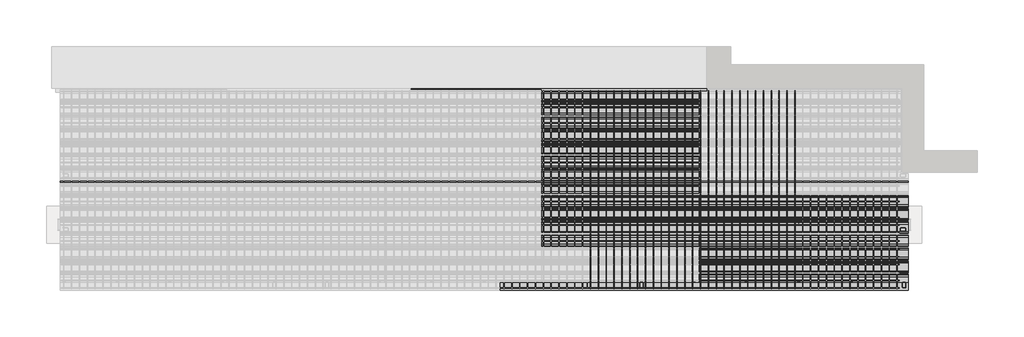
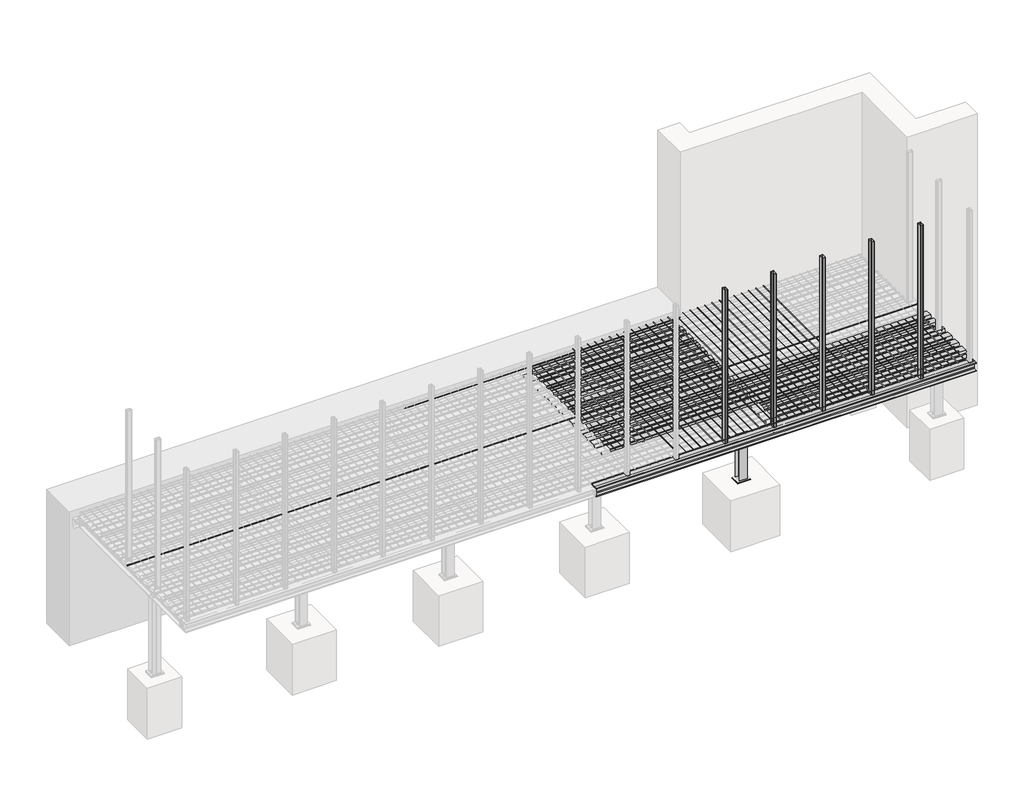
# One storey, part 4 of 36: 39 beams, 6 columns, 1 plate.
"""IFC4 building model written with IfcOpenShell, lengths in millimetres."""

from ifc_helpers import new_model, si_unit, point, frame, frame_2d, origin, place, context, project, spatial, polyline, circle_curve, trimmed, segment, composite_curve, outline, extrude, faceted_brep, element, save

model = new_model("IFC4")

# Units and contexts
model_context = context("Model", 3, world=origin())
ifc_project = project(units=[si_unit("LENGTHUNIT", "METRE", prefix="MILLI")], contexts=[model_context])

# Site, building, storey
site = spatial("IfcSite", under=ifc_project)
building = spatial("IfcBuilding", under=site)
storey = spatial("IfcBuildingStorey", under=building, Name="Základy", Elevation=-1200.0)

# Beams
placement = place(None, origin())
element("IfcBeam", 1, ObjectType="D12", at=placement, inside=storey, context=model_context, shape_type="SweptSolid", body=[
    extrude(outline(composite_curve([segment(trimmed(circle_curve(frame_2d((2079.992562, -139.0)), 6.0), [point((2073.992562, -139.0))], [point((2085.992562, -139.0))], False, "CARTESIAN"), True, "CONTINUOUS"), segment(trimmed(circle_curve(frame_2d((2079.992562, -139.0)), 6.0), [point((2085.992562, -139.0))], [point((2073.992562, -139.0))], False, "CARTESIAN"), True, "CONTINUOUS")], self_intersect=False)), frame((-40.0, 0.0, 0.0), z_axis=(1.0, 0.0, 0.0), x_axis=(0.0, 1.0, 0.0)), (0.0, 0.0, 1.0), 16180.0),
])
element("IfcBeam", 2, ObjectType="D8", at=placement, inside=storey, context=model_context, shape_type="SweptSolid", body=[
    extrude(outline(composite_curve([segment(trimmed(circle_curve(frame_2d((-49.0, 10077.5)), 4.0), [point((-49.0, 10073.5))], [point((-49.0, 10081.5))], False, "CARTESIAN"), True, "CONTINUOUS"), segment(trimmed(circle_curve(frame_2d((-49.0, 10077.5)), 4.0), [point((-49.0, 10081.5))], [point((-49.0, 10073.5))], False, "CARTESIAN"), True, "CONTINUOUS")], self_intersect=False)), frame((0.0, 35.0, 0.0), z_axis=(0.0, 1.0, 0.0), x_axis=(0.0, 0.0, 1.0)), (0.0, 0.0, 1.0), 3780.0),
])
element("IfcBeam", 3, ObjectType="D8", at=placement, inside=storey, context=model_context, shape_type="SweptSolid", body=[
    extrude(outline(composite_curve([segment(trimmed(circle_curve(frame_2d((-49.0, 10227.5)), 4.0), [point((-49.0, 10223.5))], [point((-49.0, 10231.5))], False, "CARTESIAN"), True, "CONTINUOUS"), segment(trimmed(circle_curve(frame_2d((-49.0, 10227.5)), 4.0), [point((-49.0, 10231.5))], [point((-49.0, 10223.5))], False, "CARTESIAN"), True, "CONTINUOUS")], self_intersect=False)), frame((0.0, 35.0, 0.0), z_axis=(0.0, 1.0, 0.0), x_axis=(0.0, 0.0, 1.0)), (0.0, 0.0, 1.0), 3780.0),
])
element("IfcBeam", 4, ObjectType="D8", at=placement, inside=storey, context=model_context, shape_type="SweptSolid", body=[
    extrude(outline(composite_curve([segment(trimmed(circle_curve(frame_2d((-49.0, 10377.5)), 4.0), [point((-49.0, 10373.5))], [point((-49.0, 10381.5))], False, "CARTESIAN"), True, "CONTINUOUS"), segment(trimmed(circle_curve(frame_2d((-49.0, 10377.5)), 4.0), [point((-49.0, 10381.5))], [point((-49.0, 10373.5))], False, "CARTESIAN"), True, "CONTINUOUS")], self_intersect=False)), frame((0.0, 35.0, 0.0), z_axis=(0.0, 1.0, 0.0), x_axis=(0.0, 0.0, 1.0)), (0.0, 0.0, 1.0), 3780.0),
])
element("IfcBeam", 5, ObjectType="D8", at=placement, inside=storey, context=model_context, shape_type="SweptSolid", body=[
    extrude(outline(composite_curve([segment(trimmed(circle_curve(frame_2d((-49.0, 10527.5)), 4.0), [point((-49.0, 10523.5))], [point((-49.0, 10531.5))], False, "CARTESIAN"), True, "CONTINUOUS"), segment(trimmed(circle_curve(frame_2d((-49.0, 10527.5)), 4.0), [point((-49.0, 10531.5))], [point((-49.0, 10523.5))], False, "CARTESIAN"), True, "CONTINUOUS")], self_intersect=False)), frame((0.0, 35.0, 0.0), z_axis=(0.0, 1.0, 0.0), x_axis=(0.0, 0.0, 1.0)), (0.0, 0.0, 1.0), 3780.0),
])
element("IfcBeam", 6, ObjectType="D8", at=placement, inside=storey, context=model_context, shape_type="SweptSolid", body=[
    extrude(outline(composite_curve([segment(trimmed(circle_curve(frame_2d((-49.0, 10677.5)), 4.0), [point((-49.0, 10673.5))], [point((-49.0, 10681.5))], False, "CARTESIAN"), True, "CONTINUOUS"), segment(trimmed(circle_curve(frame_2d((-49.0, 10677.5)), 4.0), [point((-49.0, 10681.5))], [point((-49.0, 10673.5))], False, "CARTESIAN"), True, "CONTINUOUS")], self_intersect=False)), frame((0.0, 35.0, 0.0), z_axis=(0.0, 1.0, 0.0), x_axis=(0.0, 0.0, 1.0)), (0.0, 0.0, 1.0), 3780.0),
])
element("IfcBeam", 7, ObjectType="D8", at=placement, inside=storey, context=model_context, shape_type="SweptSolid", body=[
    extrude(outline(composite_curve([segment(trimmed(circle_curve(frame_2d((-49.0, 10827.5)), 4.0), [point((-49.0, 10823.5))], [point((-49.0, 10831.5))], False, "CARTESIAN"), True, "CONTINUOUS"), segment(trimmed(circle_curve(frame_2d((-49.0, 10827.5)), 4.0), [point((-49.0, 10831.5))], [point((-49.0, 10823.5))], False, "CARTESIAN"), True, "CONTINUOUS")], self_intersect=False)), frame((0.0, 35.0, 0.0), z_axis=(0.0, 1.0, 0.0), x_axis=(0.0, 0.0, 1.0)), (0.0, 0.0, 1.0), 3780.0),
])
element("IfcBeam", 8, ObjectType="D8", at=placement, inside=storey, context=model_context, shape_type="SweptSolid", body=[
    extrude(outline(composite_curve([segment(trimmed(circle_curve(frame_2d((-49.0, 10977.5)), 4.0), [point((-49.0, 10973.5))], [point((-49.0, 10981.5))], False, "CARTESIAN"), True, "CONTINUOUS"), segment(trimmed(circle_curve(frame_2d((-49.0, 10977.5)), 4.0), [point((-49.0, 10981.5))], [point((-49.0, 10973.5))], False, "CARTESIAN"), True, "CONTINUOUS")], self_intersect=False)), frame((0.0, 35.0, 0.0), z_axis=(0.0, 1.0, 0.0), x_axis=(0.0, 0.0, 1.0)), (0.0, 0.0, 1.0), 3780.0),
])
element("IfcBeam", 9, ObjectType="D8", at=placement, inside=storey, context=model_context, shape_type="SweptSolid", body=[
    extrude(outline(composite_curve([segment(trimmed(circle_curve(frame_2d((-49.0, 11127.5)), 4.0), [point((-49.0, 11123.5))], [point((-49.0, 11131.5))], False, "CARTESIAN"), True, "CONTINUOUS"), segment(trimmed(circle_curve(frame_2d((-49.0, 11127.5)), 4.0), [point((-49.0, 11131.5))], [point((-49.0, 11123.5))], False, "CARTESIAN"), True, "CONTINUOUS")], self_intersect=False)), frame((0.0, 35.0, 0.0), z_axis=(0.0, 1.0, 0.0), x_axis=(0.0, 0.0, 1.0)), (0.0, 0.0, 1.0), 3780.0),
])
element("IfcBeam", 10, ObjectType="D8", at=placement, inside=storey, context=model_context, shape_type="SweptSolid", body=[
    extrude(outline(composite_curve([segment(trimmed(circle_curve(frame_2d((-49.0, 11277.5)), 4.0), [point((-49.0, 11273.5))], [point((-49.0, 11281.5))], False, "CARTESIAN"), True, "CONTINUOUS"), segment(trimmed(circle_curve(frame_2d((-49.0, 11277.5)), 4.0), [point((-49.0, 11281.5))], [point((-49.0, 11273.5))], False, "CARTESIAN"), True, "CONTINUOUS")], self_intersect=False)), frame((0.0, 35.0, 0.0), z_axis=(0.0, 1.0, 0.0), x_axis=(0.0, 0.0, 1.0)), (0.0, 0.0, 1.0), 3780.0),
])
element("IfcBeam", 11, ObjectType="D8", at=placement, inside=storey, context=model_context, shape_type="SweptSolid", body=[
    extrude(outline(composite_curve([segment(trimmed(circle_curve(frame_2d((-49.0, 11427.5)), 4.0), [point((-49.0, 11423.5))], [point((-49.0, 11431.5))], False, "CARTESIAN"), True, "CONTINUOUS"), segment(trimmed(circle_curve(frame_2d((-49.0, 11427.5)), 4.0), [point((-49.0, 11431.5))], [point((-49.0, 11423.5))], False, "CARTESIAN"), True, "CONTINUOUS")], self_intersect=False)), frame((0.0, 35.0, 0.0), z_axis=(0.0, 1.0, 0.0), x_axis=(0.0, 0.0, 1.0)), (0.0, 0.0, 1.0), 3780.0),
])
element("IfcBeam", 12, ObjectType="D8", at=placement, inside=storey, context=model_context, shape_type="SweptSolid", body=[
    extrude(outline(composite_curve([segment(trimmed(circle_curve(frame_2d((-49.0, 11577.5)), 4.0), [point((-49.0, 11573.5))], [point((-49.0, 11581.5))], False, "CARTESIAN"), True, "CONTINUOUS"), segment(trimmed(circle_curve(frame_2d((-49.0, 11577.5)), 4.0), [point((-49.0, 11581.5))], [point((-49.0, 11573.5))], False, "CARTESIAN"), True, "CONTINUOUS")], self_intersect=False)), frame((0.0, 35.0, 0.0), z_axis=(0.0, 1.0, 0.0), x_axis=(0.0, 0.0, 1.0)), (0.0, 0.0, 1.0), 3780.0),
])
element("IfcBeam", 13, ObjectType="D8", at=placement, inside=storey, context=model_context, shape_type="SweptSolid", body=[
    extrude(outline(composite_curve([segment(trimmed(circle_curve(frame_2d((-49.0, 11727.5)), 4.0), [point((-49.0, 11723.5))], [point((-49.0, 11731.5))], False, "CARTESIAN"), True, "CONTINUOUS"), segment(trimmed(circle_curve(frame_2d((-49.0, 11727.5)), 4.0), [point((-49.0, 11731.5))], [point((-49.0, 11723.5))], False, "CARTESIAN"), True, "CONTINUOUS")], self_intersect=False)), frame((0.0, 35.0, 0.0), z_axis=(0.0, 1.0, 0.0), x_axis=(0.0, 0.0, 1.0)), (0.0, 0.0, 1.0), 3780.0),
])
element("IfcBeam", 14, ObjectType="D8", at=placement, inside=storey, context=model_context, shape_type="SweptSolid", body=[
    extrude(outline(composite_curve([segment(trimmed(circle_curve(frame_2d((-49.0, 11877.5)), 4.0), [point((-49.0, 11873.5))], [point((-49.0, 11881.5))], False, "CARTESIAN"), True, "CONTINUOUS"), segment(trimmed(circle_curve(frame_2d((-49.0, 11877.5)), 4.0), [point((-49.0, 11881.5))], [point((-49.0, 11873.5))], False, "CARTESIAN"), True, "CONTINUOUS")], self_intersect=False)), frame((0.0, 35.0, 0.0), z_axis=(0.0, 1.0, 0.0), x_axis=(0.0, 0.0, 1.0)), (0.0, 0.0, 1.0), 3780.0),
])
element("IfcBeam", 15, ObjectType="D8", at=placement, inside=storey, context=model_context, shape_type="SweptSolid", body=[
    extrude(outline(composite_curve([segment(trimmed(circle_curve(frame_2d((-49.0, 12027.5)), 4.0), [point((-49.0, 12023.5))], [point((-49.0, 12031.5))], False, "CARTESIAN"), True, "CONTINUOUS"), segment(trimmed(circle_curve(frame_2d((-49.0, 12027.5)), 4.0), [point((-49.0, 12031.5))], [point((-49.0, 12023.5))], False, "CARTESIAN"), True, "CONTINUOUS")], self_intersect=False)), frame((0.0, 35.0, 0.0), z_axis=(0.0, 1.0, 0.0), x_axis=(0.0, 0.0, 1.0)), (0.0, 0.0, 1.0), 3780.0),
])
element("IfcBeam", 16, ObjectType="D8", at=placement, inside=storey, context=model_context, shape_type="SweptSolid", body=[
    extrude(outline(composite_curve([segment(trimmed(circle_curve(frame_2d((-49.0, 12177.5)), 4.0), [point((-49.0, 12173.5))], [point((-49.0, 12181.5))], False, "CARTESIAN"), True, "CONTINUOUS"), segment(trimmed(circle_curve(frame_2d((-49.0, 12177.5)), 4.0), [point((-49.0, 12181.5))], [point((-49.0, 12173.5))], False, "CARTESIAN"), True, "CONTINUOUS")], self_intersect=False)), frame((0.0, 35.0, 0.0), z_axis=(0.0, 1.0, 0.0), x_axis=(0.0, 0.0, 1.0)), (0.0, 0.0, 1.0), 3780.0),
])
element("IfcBeam", 17, ObjectType="D8", at=placement, inside=storey, context=model_context, shape_type="SweptSolid", body=[
    extrude(outline(composite_curve([segment(trimmed(circle_curve(frame_2d((-49.0, 12327.5)), 4.0), [point((-49.0, 12323.5))], [point((-49.0, 12331.5))], False, "CARTESIAN"), True, "CONTINUOUS"), segment(trimmed(circle_curve(frame_2d((-49.0, 12327.5)), 4.0), [point((-49.0, 12331.5))], [point((-49.0, 12323.5))], False, "CARTESIAN"), True, "CONTINUOUS")], self_intersect=False)), frame((0.0, 35.0, 0.0), z_axis=(0.0, 1.0, 0.0), x_axis=(0.0, 0.0, 1.0)), (0.0, 0.0, 1.0), 3780.0),
])
element("IfcBeam", 18, ObjectType="D8", at=placement, inside=storey, context=model_context, shape_type="SweptSolid", body=[
    extrude(outline(composite_curve([segment(trimmed(circle_curve(frame_2d((-49.0, 12477.5)), 4.0), [point((-49.0, 12473.5))], [point((-49.0, 12481.5))], False, "CARTESIAN"), True, "CONTINUOUS"), segment(trimmed(circle_curve(frame_2d((-49.0, 12477.5)), 4.0), [point((-49.0, 12481.5))], [point((-49.0, 12473.5))], False, "CARTESIAN"), True, "CONTINUOUS")], self_intersect=False)), frame((0.0, 35.0, 0.0), z_axis=(0.0, 1.0, 0.0), x_axis=(0.0, 0.0, 1.0)), (0.0, 0.0, 1.0), 3780.0),
])
element("IfcBeam", 19, ObjectType="D8", at=placement, inside=storey, context=model_context, shape_type="SweptSolid", body=[
    extrude(outline(composite_curve([segment(trimmed(circle_curve(frame_2d((-49.0, 12627.5)), 4.0), [point((-49.0, 12623.5))], [point((-49.0, 12631.5))], False, "CARTESIAN"), True, "CONTINUOUS"), segment(trimmed(circle_curve(frame_2d((-49.0, 12627.5)), 4.0), [point((-49.0, 12631.5))], [point((-49.0, 12623.5))], False, "CARTESIAN"), True, "CONTINUOUS")], self_intersect=False)), frame((0.0, 35.0, 0.0), z_axis=(0.0, 1.0, 0.0), x_axis=(0.0, 0.0, 1.0)), (0.0, 0.0, 1.0), 3780.0),
])
element("IfcBeam", 20, ObjectType="D8", at=placement, inside=storey, context=model_context, shape_type="SweptSolid", body=[
    extrude(outline(composite_curve([segment(trimmed(circle_curve(frame_2d((-49.0, 12777.5)), 4.0), [point((-49.0, 12773.5))], [point((-49.0, 12781.5))], False, "CARTESIAN"), True, "CONTINUOUS"), segment(trimmed(circle_curve(frame_2d((-49.0, 12777.5)), 4.0), [point((-49.0, 12781.5))], [point((-49.0, 12773.5))], False, "CARTESIAN"), True, "CONTINUOUS")], self_intersect=False)), frame((0.0, 35.0, 0.0), z_axis=(0.0, 1.0, 0.0), x_axis=(0.0, 0.0, 1.0)), (0.0, 0.0, 1.0), 3780.0),
])
element("IfcBeam", 21, ObjectType="D8", at=placement, inside=storey, context=model_context, shape_type="SweptSolid", body=[
    extrude(outline(composite_curve([segment(trimmed(circle_curve(frame_2d((-49.0, 12927.5)), 4.0), [point((-49.0, 12923.5))], [point((-49.0, 12931.5))], False, "CARTESIAN"), True, "CONTINUOUS"), segment(trimmed(circle_curve(frame_2d((-49.0, 12927.5)), 4.0), [point((-49.0, 12931.5))], [point((-49.0, 12923.5))], False, "CARTESIAN"), True, "CONTINUOUS")], self_intersect=False)), frame((0.0, 35.0, 0.0), z_axis=(0.0, 1.0, 0.0), x_axis=(0.0, 0.0, 1.0)), (0.0, 0.0, 1.0), 3780.0),
])
element("IfcBeam", 22, ObjectType="D8", at=placement, inside=storey, context=model_context, shape_type="SweptSolid", body=[
    extrude(outline(composite_curve([segment(trimmed(circle_curve(frame_2d((-49.0, 13077.5)), 4.0), [point((-49.0, 13073.5))], [point((-49.0, 13081.5))], False, "CARTESIAN"), True, "CONTINUOUS"), segment(trimmed(circle_curve(frame_2d((-49.0, 13077.5)), 4.0), [point((-49.0, 13081.5))], [point((-49.0, 13073.5))], False, "CARTESIAN"), True, "CONTINUOUS")], self_intersect=False)), frame((0.0, 35.0, 0.0), z_axis=(0.0, 1.0, 0.0), x_axis=(0.0, 0.0, 1.0)), (0.0, 0.0, 1.0), 3780.0),
])
element("IfcBeam", 23, ObjectType="D8", at=placement, inside=storey, context=model_context, shape_type="SweptSolid", body=[
    extrude(outline(composite_curve([segment(trimmed(circle_curve(frame_2d((-49.0, 13227.5)), 4.0), [point((-49.0, 13223.5))], [point((-49.0, 13231.5))], False, "CARTESIAN"), True, "CONTINUOUS"), segment(trimmed(circle_curve(frame_2d((-49.0, 13227.5)), 4.0), [point((-49.0, 13231.5))], [point((-49.0, 13223.5))], False, "CARTESIAN"), True, "CONTINUOUS")], self_intersect=False)), frame((0.0, 35.0, 0.0), z_axis=(0.0, 1.0, 0.0), x_axis=(0.0, 0.0, 1.0)), (0.0, 0.0, 1.0), 3780.0),
])
element("IfcBeam", 24, ObjectType="D8", at=placement, inside=storey, context=model_context, shape_type="SweptSolid", body=[
    extrude(outline(composite_curve([segment(trimmed(circle_curve(frame_2d((-49.0, 13377.5)), 4.0), [point((-49.0, 13373.5))], [point((-49.0, 13381.5))], False, "CARTESIAN"), True, "CONTINUOUS"), segment(trimmed(circle_curve(frame_2d((-49.0, 13377.5)), 4.0), [point((-49.0, 13381.5))], [point((-49.0, 13373.5))], False, "CARTESIAN"), True, "CONTINUOUS")], self_intersect=False)), frame((0.0, 35.0, 0.0), z_axis=(0.0, 1.0, 0.0), x_axis=(0.0, 0.0, 1.0)), (0.0, 0.0, 1.0), 3780.0),
])
element("IfcBeam", 25, ObjectType="D8", at=placement, inside=storey, context=model_context, shape_type="SweptSolid", body=[
    extrude(outline(composite_curve([segment(trimmed(circle_curve(frame_2d((-49.0, 13527.5)), 4.0), [point((-49.0, 13523.5))], [point((-49.0, 13531.5))], False, "CARTESIAN"), True, "CONTINUOUS"), segment(trimmed(circle_curve(frame_2d((-49.0, 13527.5)), 4.0), [point((-49.0, 13531.5))], [point((-49.0, 13523.5))], False, "CARTESIAN"), True, "CONTINUOUS")], self_intersect=False)), frame((0.0, 35.0, 0.0), z_axis=(0.0, 1.0, 0.0), x_axis=(0.0, 0.0, 1.0)), (0.0, 0.0, 1.0), 3780.0),
])
element("IfcBeam", 26, ObjectType="D8", at=placement, inside=storey, context=model_context, shape_type="SweptSolid", body=[
    extrude(outline(composite_curve([segment(trimmed(circle_curve(frame_2d((-49.0, 13677.5)), 4.0), [point((-49.0, 13673.5))], [point((-49.0, 13681.5))], False, "CARTESIAN"), True, "CONTINUOUS"), segment(trimmed(circle_curve(frame_2d((-49.0, 13677.5)), 4.0), [point((-49.0, 13681.5))], [point((-49.0, 13673.5))], False, "CARTESIAN"), True, "CONTINUOUS")], self_intersect=False)), frame((0.0, 35.0, 0.0), z_axis=(0.0, 1.0, 0.0), x_axis=(0.0, 0.0, 1.0)), (0.0, 0.0, 1.0), 3780.0),
])
element("IfcBeam", 27, ObjectType="D8", at=placement, inside=storey, context=model_context, shape_type="SweptSolid", body=[
    extrude(outline(composite_curve([segment(trimmed(circle_curve(frame_2d((-49.0, 13827.5)), 4.0), [point((-49.0, 13823.5))], [point((-49.0, 13831.5))], False, "CARTESIAN"), True, "CONTINUOUS"), segment(trimmed(circle_curve(frame_2d((-49.0, 13827.5)), 4.0), [point((-49.0, 13831.5))], [point((-49.0, 13823.5))], False, "CARTESIAN"), True, "CONTINUOUS")], self_intersect=False)), frame((0.0, 35.0, 0.0), z_axis=(0.0, 1.0, 0.0), x_axis=(0.0, 0.0, 1.0)), (0.0, 0.0, 1.0), 3780.0),
])
element("IfcBeam", 28, ObjectType="D8", at=placement, inside=storey, context=model_context, shape_type="SweptSolid", body=[
    extrude(outline(composite_curve([segment(trimmed(circle_curve(frame_2d((-49.0, 13977.5)), 4.0), [point((-49.0, 13973.5))], [point((-49.0, 13981.5))], False, "CARTESIAN"), True, "CONTINUOUS"), segment(trimmed(circle_curve(frame_2d((-49.0, 13977.5)), 4.0), [point((-49.0, 13981.5))], [point((-49.0, 13973.5))], False, "CARTESIAN"), True, "CONTINUOUS")], self_intersect=False)), frame((0.0, 35.0, 0.0), z_axis=(0.0, 1.0, 0.0), x_axis=(0.0, 0.0, 1.0)), (0.0, 0.0, 1.0), 3780.0),
])
element("IfcBeam", 29, ObjectType="HEA120", at=placement, inside=storey, context=model_context, shape_type="SweptSolid", body=[
    extrude(outline(composite_curve([segment(polyline([(1200.0, -193.0), (1320.0, -193.0), (1320.0, -201.0), (1274.5, -201.0)]), True, "CONTINUOUS"), segment(trimmed(circle_curve(frame_2d((1274.5, -213.0)), 12.0), [point((1274.5, -201.0))], [point((1262.5, -213.0))], True, "CARTESIAN"), True, "CONTINUOUS"), segment(polyline([(1262.5, -213.0), (1262.5, -287.0)]), True, "CONTINUOUS"), segment(trimmed(circle_curve(frame_2d((1274.5, -287.0)), 12.0), [point((1262.5, -287.0))], [point((1274.5, -299.0))], True, "CARTESIAN"), True, "CONTINUOUS"), segment(polyline([(1274.5, -299.0), (1320.0, -299.0), (1320.0, -307.0), (1200.0, -307.0), (1200.0, -299.0), (1245.5, -299.0)]), True, "CONTINUOUS"), segment(trimmed(circle_curve(frame_2d((1245.5, -287.0)), 12.0), [point((1245.5, -299.0))], [point((1257.5, -287.0))], True, "CARTESIAN"), True, "CONTINUOUS"), segment(polyline([(1257.5, -287.0), (1257.5, -213.0)]), True, "CONTINUOUS"), segment(trimmed(circle_curve(frame_2d((1245.5, -213.0)), 12.0), [point((1257.5, -213.0))], [point((1245.5, -201.0))], True, "CARTESIAN"), True, "CONTINUOUS"), segment(polyline([(1245.5, -201.0), (1200.0, -201.0), (1200.0, -193.0)]), True, "CONTINUOUS")], self_intersect=False)), frame((9160.0, 0.0, 0.0), z_axis=(1.0, 0.0, 0.0), x_axis=(0.0, 1.0, 0.0)), (0.0, 0.0, 1.0), 2780.0),
])
element("IfcBeam", 30, ObjectType="HEB180", at=placement, inside=storey, context=model_context, shape_type="SweptSolid", body=[
    extrude(outline(composite_curve([segment(polyline([(-340.0, 12140.0), (-326.0, 12140.0), (-326.0, 12069.25)]), True, "CONTINUOUS"), segment(trimmed(circle_curve(frame_2d((-311.0, 12069.25)), 15.0), [point((-326.0, 12069.25))], [point((-311.0, 12054.25))], True, "CARTESIAN"), True, "CONTINUOUS"), segment(polyline([(-311.0, 12054.25), (-189.0, 12054.25)]), True, "CONTINUOUS"), segment(trimmed(circle_curve(frame_2d((-189.0, 12069.25)), 15.0), [point((-189.0, 12054.25))], [point((-174.0, 12069.25))], True, "CARTESIAN"), True, "CONTINUOUS"), segment(polyline([(-174.0, 12069.25), (-174.0, 12140.0), (-160.0, 12140.0), (-160.0, 11960.0), (-174.0, 11960.0), (-174.0, 12030.75)]), True, "CONTINUOUS"), segment(trimmed(circle_curve(frame_2d((-189.0, 12030.75)), 15.0), [point((-174.0, 12030.75))], [point((-189.0, 12045.75))], True, "CARTESIAN"), True, "CONTINUOUS"), segment(polyline([(-189.0, 12045.75), (-311.0, 12045.75)]), True, "CONTINUOUS"), segment(trimmed(circle_curve(frame_2d((-311.0, 12030.75)), 15.0), [point((-311.0, 12045.75))], [point((-326.0, 12030.75))], True, "CARTESIAN"), True, "CONTINUOUS"), segment(polyline([(-326.0, 12030.75), (-326.0, 11960.0), (-340.0, 11960.0), (-340.0, 12140.0)]), True, "CONTINUOUS")], self_intersect=False)), frame((0.0, 210.0, 0.0), z_axis=(0.0, 1.0, 0.0), x_axis=(0.0, 0.0, 1.0)), (0.0, 0.0, 1.0), 3557.0),
])
element("IfcBeam", 31, ObjectType="HEB180", at=placement, inside=storey, context=model_context, shape_type="SweptSolid", body=[
    extrude(outline(composite_curve([segment(polyline([(10.0, -160.0), (190.0, -160.0), (190.0, -174.0), (119.25, -174.0)]), True, "CONTINUOUS"), segment(trimmed(circle_curve(frame_2d((119.25, -189.0)), 15.0), [point((119.25, -174.0))], [point((104.25, -189.0))], True, "CARTESIAN"), True, "CONTINUOUS"), segment(polyline([(104.25, -189.0), (104.25, -311.0)]), True, "CONTINUOUS"), segment(trimmed(circle_curve(frame_2d((119.25, -311.0)), 15.0), [point((104.25, -311.0))], [point((119.25, -326.0))], True, "CARTESIAN"), True, "CONTINUOUS"), segment(polyline([(119.25, -326.0), (190.0, -326.0), (190.0, -340.0), (10.0, -340.0), (10.0, -326.0), (80.75, -326.0)]), True, "CONTINUOUS"), segment(trimmed(circle_curve(frame_2d((80.75, -311.0)), 15.0), [point((80.75, -326.0))], [point((95.75, -311.0))], True, "CARTESIAN"), True, "CONTINUOUS"), segment(polyline([(95.75, -311.0), (95.75, -189.0)]), True, "CONTINUOUS"), segment(trimmed(circle_curve(frame_2d((80.75, -189.0)), 15.0), [point((95.75, -189.0))], [point((80.75, -174.0))], True, "CARTESIAN"), True, "CONTINUOUS"), segment(polyline([(80.75, -174.0), (10.0, -174.0), (10.0, -160.0)]), True, "CONTINUOUS")], self_intersect=False)), frame((8360.0, 0.0, 0.0), z_axis=(1.0, 0.0, 0.0), x_axis=(0.0, 1.0, 0.0)), (0.0, 0.0, 1.0), 7780.0),
])
element("IfcBeam", 32, ObjectType="HEB180", at=placement, inside=storey, context=model_context, shape_type="SweptSolid", body=[
    extrude(outline(composite_curve([segment(polyline([(1170.0, -160.0), (1350.0, -160.0), (1350.0, -174.0), (1279.25, -174.0)]), True, "CONTINUOUS"), segment(trimmed(circle_curve(frame_2d((1279.25, -189.0)), 15.0), [point((1279.25, -174.0))], [point((1264.25, -189.0))], True, "CARTESIAN"), True, "CONTINUOUS"), segment(polyline([(1264.25, -189.0), (1264.25, -311.0)]), True, "CONTINUOUS"), segment(trimmed(circle_curve(frame_2d((1279.25, -311.0)), 15.0), [point((1264.25, -311.0))], [point((1279.25, -326.0))], True, "CARTESIAN"), True, "CONTINUOUS"), segment(polyline([(1279.25, -326.0), (1350.0, -326.0), (1350.0, -340.0), (1170.0, -340.0), (1170.0, -326.0), (1240.75, -326.0)]), True, "CONTINUOUS"), segment(trimmed(circle_curve(frame_2d((1240.75, -311.0)), 15.0), [point((1240.75, -326.0))], [point((1255.75, -311.0))], True, "CARTESIAN"), True, "CONTINUOUS"), segment(polyline([(1255.75, -311.0), (1255.75, -189.0)]), True, "CONTINUOUS"), segment(trimmed(circle_curve(frame_2d((1240.75, -189.0)), 15.0), [point((1255.75, -189.0))], [point((1240.75, -174.0))], True, "CARTESIAN"), True, "CONTINUOUS"), segment(polyline([(1240.75, -174.0), (1170.0, -174.0), (1170.0, -160.0)]), True, "CONTINUOUS")], self_intersect=False)), frame((12160.0, 0.0, 0.0), z_axis=(1.0, 0.0, 0.0), x_axis=(0.0, 1.0, 0.0)), (0.0, 0.0, 1.0), 3780.0),
])
element("IfcBeam", 33, ObjectType="IPE180", at=placement, inside=storey, context=model_context, shape_type="SweptSolid", body=[
    extrude(outline(composite_curve([segment(polyline([(-340.0, 14095.5), (-332.0, 14095.5), (-332.0, 14061.6500001)]), True, "CONTINUOUS"), segment(trimmed(circle_curve(frame_2d((-323.0, 14061.6500001)), 9.0), [point((-332.0, 14061.6500001))], [point((-323.0, 14052.6500001))], True, "CARTESIAN"), True, "CONTINUOUS"), segment(polyline([(-323.0, 14052.6500001), (-177.0, 14052.6500001)]), True, "CONTINUOUS"), segment(trimmed(circle_curve(frame_2d((-177.0, 14061.6500001)), 9.0), [point((-177.0, 14052.6500001))], [point((-168.0, 14061.6500001))], True, "CARTESIAN"), True, "CONTINUOUS"), segment(polyline([(-168.0, 14061.6500001), (-168.0, 14095.5), (-160.0, 14095.5), (-160.0, 14004.5), (-168.0, 14004.5), (-168.0, 14038.3499999)]), True, "CONTINUOUS"), segment(trimmed(circle_curve(frame_2d((-177.0, 14038.3499999)), 9.0), [point((-168.0, 14038.3499999))], [point((-177.0, 14047.3499999))], True, "CARTESIAN"), True, "CONTINUOUS"), segment(polyline([(-177.0, 14047.3499999), (-323.0, 14047.3499999)]), True, "CONTINUOUS"), segment(trimmed(circle_curve(frame_2d((-323.0, 14038.3499999)), 9.0), [point((-323.0, 14047.3499999))], [point((-332.0, 14038.3499999))], True, "CARTESIAN"), True, "CONTINUOUS"), segment(polyline([(-332.0, 14038.3499999), (-332.0, 14004.5), (-340.0, 14004.5), (-340.0, 14095.5)]), True, "CONTINUOUS")], self_intersect=False)), frame((0.0, 210.0, 0.0), z_axis=(0.0, 1.0, 0.0), x_axis=(0.0, 0.0, 1.0)), (0.0, 0.0, 1.0), 940.0),
])
element("IfcBeam", 34, ObjectType="TR50/250", at=placement, inside=storey, context=model_context, shape_type="SweptSolid", body=[
    extrude(outline(polyline([(3802.7875602, -160.0099992), (3772.2875602, -111.5000008), (3637.6975638, -111.5000008), (3607.1975638, -160.0000008), (3552.7875754, -160.0000008), (3522.2875754, -111.5000008), (3387.6975715, -111.5000008), (3357.1975715, -160.0000008), (3302.7875697, -160.0000008), (3272.2875716, -111.5000008), (3137.6975638, -111.5000008), (3107.1975638, -160.0000008), (3052.7875602, -160.0000008), (3022.2875602, -111.5000008), (2887.6975638, -111.5000008), (2857.1975638, -160.0000008), (2802.7875602, -160.0000008), (2790.7375724, -139.4300002), (2803.1975638, -159.2500008), (2856.7875602, -159.2500008), (2887.2875602, -110.7500008), (3022.6975638, -110.7500008), (3053.1975638, -159.2500008), (3106.7875754, -159.2500008), (3137.2875754, -110.7500008), (3272.6975715, -110.7500008), (3303.1975695, -159.2500008), (3356.7875716, -159.2500008), (3387.2875678, -110.7500008), (3522.6975638, -110.7500008), (3553.1975638, -159.2500008), (3606.7875602, -159.2500008), (3637.2875602, -110.7500008), (3772.6975638, -110.7500008), (3803.1975638, -159.2500008), (3839.9975821, -160.0000008), (3802.7875602, -160.0099992)])), frame((8960.0, 0.0, 0.0), z_axis=(1.0, 0.0, 0.0), x_axis=(0.0, 1.0, 0.0)), (0.0, 0.0, 1.0), 3180.0),
])
element("IfcBeam", 35, ObjectType="TR50/250", at=placement, inside=storey, context=model_context, shape_type="SweptSolid", body=[
    extrude(outline(polyline([(2802.7875602, -160.0099992), (2772.2875602, -111.5000008), (2637.6975638, -111.5000008), (2607.1975638, -160.0000008), (2552.7875754, -160.0000008), (2522.2875754, -111.5000008), (2387.6975715, -111.5000008), (2357.1975715, -160.0000008), (2302.7875697, -160.0000008), (2272.2875716, -111.5000008), (2137.6975638, -111.5000008), (2107.1975638, -160.0000008), (2052.7875602, -160.0000008), (2022.2875602, -111.5000008), (1887.6975638, -111.5000008), (1857.1975638, -160.0000008), (1802.7875602, -160.0000008), (1790.7375724, -139.4300002), (1803.1975638, -159.2500008), (1856.7875602, -159.2500008), (1887.2875602, -110.7500008), (2022.6975638, -110.7500008), (2053.1975638, -159.2500008), (2106.7875754, -159.2500008), (2137.2875754, -110.7500008), (2272.6975715, -110.7500008), (2303.1975695, -159.2500008), (2356.7875716, -159.2500008), (2387.2875678, -110.7500008), (2522.6975638, -110.7500008), (2553.1975638, -159.2500008), (2606.7875602, -159.2500008), (2637.2875602, -110.7500008), (2772.6975638, -110.7500008), (2803.1975638, -159.2500008), (2839.9975821, -160.0000008), (2802.7875602, -160.0099992)])), frame((8960.0, 0.0, 0.0), z_axis=(1.0, 0.0, 0.0), x_axis=(0.0, 1.0, 0.0)), (0.0, 0.0, 1.0), 3180.0),
])
element("IfcBeam", 36, ObjectType="TR50/250", at=placement, inside=storey, context=model_context, shape_type="SweptSolid", body=[
    extrude(outline(polyline([(1802.7875602, -160.0099992), (1772.2875602, -111.5000008), (1637.6975638, -111.5000008), (1607.1975638, -160.0000008), (1552.7875754, -160.0000008), (1522.2875754, -111.5000008), (1387.6975715, -111.5000008), (1357.1975715, -160.0000008), (1302.7875697, -160.0000008), (1272.2875716, -111.5000008), (1137.6975638, -111.5000008), (1107.1975638, -160.0000008), (1052.7875602, -160.0000008), (1022.2875602, -111.5000008), (887.6975638, -111.5000008), (857.1975638, -160.0000008), (802.7875602, -160.0000008), (790.7375724, -139.4300002), (803.1975638, -159.2500008), (856.7875602, -159.2500008), (887.2875602, -110.7500008), (1022.6975638, -110.7500008), (1053.1975638, -159.2500008), (1106.7875754, -159.2500008), (1137.2875754, -110.7500008), (1272.6975715, -110.7500008), (1303.1975695, -159.2500008), (1356.7875716, -159.2500008), (1387.2875678, -110.7500008), (1522.6975638, -110.7500008), (1553.1975638, -159.2500008), (1606.7875602, -159.2500008), (1637.2875602, -110.7500008), (1772.6975638, -110.7500008), (1803.1975638, -159.2500008), (1839.9975821, -160.0000008), (1802.7875602, -160.0099992)])), frame((8960.0, 0.0, 0.0), z_axis=(1.0, 0.0, 0.0), x_axis=(0.0, 1.0, 0.0)), (0.0, 0.0, 1.0), 3180.0),
])
element("IfcBeam", 37, ObjectType="TR50/250", at=placement, inside=storey, context=model_context, shape_type="SweptSolid", body=[
    extrude(outline(polyline([(1802.7875602, -160.0099992), (1772.2875602, -111.5000008), (1637.6975638, -111.5000008), (1607.1975638, -160.0000008), (1552.7875754, -160.0000008), (1522.2875754, -111.5000008), (1387.6975715, -111.5000008), (1357.1975715, -160.0000008), (1302.7875697, -160.0000008), (1272.2875716, -111.5000008), (1137.6975638, -111.5000008), (1107.1975638, -160.0000008), (1052.7875602, -160.0000008), (1022.2875602, -111.5000008), (887.6975638, -111.5000008), (857.1975638, -160.0000008), (802.7875602, -160.0000008), (790.7375724, -139.4300002), (803.1975638, -159.2500008), (856.7875602, -159.2500008), (887.2875602, -110.7500008), (1022.6975638, -110.7500008), (1053.1975638, -159.2500008), (1106.7875754, -159.2500008), (1137.2875754, -110.7500008), (1272.6975715, -110.7500008), (1303.1975695, -159.2500008), (1356.7875716, -159.2500008), (1387.2875678, -110.7500008), (1522.6975638, -110.7500008), (1553.1975638, -159.2500008), (1606.7875602, -159.2500008), (1637.2875602, -110.7500008), (1772.6975638, -110.7500008), (1803.1975638, -159.2500008), (1839.9975821, -160.0000008), (1802.7875602, -160.0099992)])), frame((11960.0, 0.0, 0.0), z_axis=(1.0, 0.0, 0.0), x_axis=(0.0, 1.0, 0.0)), (0.0, 0.0, 1.0), 4180.0),
])
element("IfcBeam", 38, ObjectType="TR50/250", at=placement, inside=storey, context=model_context, shape_type="SweptSolid", body=[
    extrude(outline(polyline([(802.7875602, -160.0099992), (772.2875602, -111.5000008), (637.6975638, -111.5000008), (607.1975638, -160.0000008), (552.7875754, -160.0000008), (522.2875754, -111.5000008), (387.6975715, -111.5000008), (357.1975715, -160.0000008), (302.7875697, -160.0000008), (272.2875716, -111.5000008), (160.0, -111.5000008), (160.0, -110.7500008), (272.6975715, -110.7500008), (303.1975695, -159.2500008), (356.7875716, -159.2500008), (387.2875678, -110.7500008), (522.6975638, -110.7500008), (553.1975638, -159.2500008), (606.7875602, -159.2500008), (637.2875602, -110.7500008), (772.6975638, -110.7500008), (803.1975638, -159.2500008), (839.9975821, -160.0000008), (802.7875602, -160.0099992)])), frame((11960.0, 0.0, 0.0), z_axis=(1.0, 0.0, 0.0), x_axis=(0.0, 1.0, 0.0)), (0.0, 0.0, 1.0), 4180.0),
])
element("IfcBeam", 39, ObjectType="UPE180", at=placement, inside=storey, context=model_context, shape_type="SweptSolid", body=[
    extrude(outline(polyline([(3860.0, -160.0), (3860.0, -340.0), (3785.0, -340.0), (3785.0, -329.5), (3854.5, -329.5), (3854.5, -170.5), (3785.0, -170.5), (3785.0, -160.0), (3860.0, -160.0)])), frame((6660.0, 0.0, 0.0), z_axis=(1.0, 0.0, 0.0), x_axis=(0.0, 1.0, 0.0)), (0.0, 0.0, 1.0), 5635.0),
])

# Columns
element("IfcColumn", 40, ObjectType="RHS100*60*3.2", at=placement, inside=storey, context=model_context, shape_type="SweptSolid", body=[
    extrude(outline(composite_curve([segment(polyline([(12073.6, 60.0), (12026.4, 60.0)]), True, "CONTINUOUS"), segment(trimmed(circle_curve(frame_2d((12026.4, 66.4)), 6.4), [point((12026.4, 60.0))], [point((12020.0, 66.4))], False, "CARTESIAN"), True, "CONTINUOUS"), segment(polyline([(12020.0, 66.4), (12020.0, 153.6)]), True, "CONTINUOUS"), segment(trimmed(circle_curve(frame_2d((12026.4, 153.6)), 6.4), [point((12020.0, 153.6))], [point((12026.4, 160.0))], False, "CARTESIAN"), True, "CONTINUOUS"), segment(polyline([(12026.4, 160.0), (12073.6, 160.0)]), True, "CONTINUOUS"), segment(trimmed(circle_curve(frame_2d((12073.6, 153.6)), 6.4), [point((12073.6, 160.0))], [point((12080.0, 153.6))], False, "CARTESIAN"), True, "CONTINUOUS"), segment(polyline([(12080.0, 153.6), (12080.0, 66.4)]), True, "CONTINUOUS"), segment(trimmed(circle_curve(frame_2d((12073.6, 66.4)), 6.4), [point((12080.0, 66.4))], [point((12073.6, 60.0))], False, "CARTESIAN"), True, "CONTINUOUS")], self_intersect=False), holes=[composite_curve([segment(trimmed(circle_curve(frame_2d((12073.6, 66.4)), 3.2), [point((12073.6, 63.2))], [point((12076.8, 66.4))], True, "CARTESIAN"), True, "CONTINUOUS"), segment(polyline([(12076.8, 66.4), (12076.8, 153.6)]), True, "CONTINUOUS"), segment(trimmed(circle_curve(frame_2d((12073.6, 153.6)), 3.2), [point((12076.8, 153.6))], [point((12073.6, 156.8))], True, "CARTESIAN"), True, "CONTINUOUS"), segment(polyline([(12073.6, 156.8), (12026.4, 156.8)]), True, "CONTINUOUS"), segment(trimmed(circle_curve(frame_2d((12026.4, 153.6)), 3.2), [point((12026.4, 156.8))], [point((12023.2, 153.6))], True, "CARTESIAN"), True, "CONTINUOUS"), segment(polyline([(12023.2, 153.6), (12023.2, 66.4)]), True, "CONTINUOUS"), segment(trimmed(circle_curve(frame_2d((12026.4, 66.4)), 3.2), [point((12023.2, 66.4))], [point((12026.4, 63.2))], True, "CARTESIAN"), True, "CONTINUOUS"), segment(polyline([(12026.4, 63.2), (12073.6, 63.2)]), True, "CONTINUOUS")], self_intersect=False)]), frame((0.0, 0.0, -160.0), z_axis=(0.0, 0.0, 1.0), x_axis=(1.0, 0.0, 0.0)), (0.0, 0.0, 1.0), 3320.0),
])
element("IfcColumn", 41, ObjectType="RHS100*60*3.2", at=placement, inside=storey, context=model_context, shape_type="SweptSolid", body=[
    extrude(outline(composite_curve([segment(polyline([(11073.6, 60.0), (11026.4, 60.0)]), True, "CONTINUOUS"), segment(trimmed(circle_curve(frame_2d((11026.4, 66.4)), 6.4), [point((11026.4, 60.0))], [point((11020.0, 66.4))], False, "CARTESIAN"), True, "CONTINUOUS"), segment(polyline([(11020.0, 66.4), (11020.0, 153.6)]), True, "CONTINUOUS"), segment(trimmed(circle_curve(frame_2d((11026.4, 153.6)), 6.4), [point((11020.0, 153.6))], [point((11026.4, 160.0))], False, "CARTESIAN"), True, "CONTINUOUS"), segment(polyline([(11026.4, 160.0), (11073.6, 160.0)]), True, "CONTINUOUS"), segment(trimmed(circle_curve(frame_2d((11073.6, 153.6)), 6.4), [point((11073.6, 160.0))], [point((11080.0, 153.6))], False, "CARTESIAN"), True, "CONTINUOUS"), segment(polyline([(11080.0, 153.6), (11080.0, 66.4)]), True, "CONTINUOUS"), segment(trimmed(circle_curve(frame_2d((11073.6, 66.4)), 6.4), [point((11080.0, 66.4))], [point((11073.6, 60.0))], False, "CARTESIAN"), True, "CONTINUOUS")], self_intersect=False), holes=[composite_curve([segment(trimmed(circle_curve(frame_2d((11073.6, 66.4)), 3.2), [point((11073.6, 63.2))], [point((11076.8, 66.4))], True, "CARTESIAN"), True, "CONTINUOUS"), segment(polyline([(11076.8, 66.4), (11076.8, 153.6)]), True, "CONTINUOUS"), segment(trimmed(circle_curve(frame_2d((11073.6, 153.6)), 3.2), [point((11076.8, 153.6))], [point((11073.6, 156.8))], True, "CARTESIAN"), True, "CONTINUOUS"), segment(polyline([(11073.6, 156.8), (11026.4, 156.8)]), True, "CONTINUOUS"), segment(trimmed(circle_curve(frame_2d((11026.4, 153.6)), 3.2), [point((11026.4, 156.8))], [point((11023.2, 153.6))], True, "CARTESIAN"), True, "CONTINUOUS"), segment(polyline([(11023.2, 153.6), (11023.2, 66.4)]), True, "CONTINUOUS"), segment(trimmed(circle_curve(frame_2d((11026.4, 66.4)), 3.2), [point((11023.2, 66.4))], [point((11026.4, 63.2))], True, "CARTESIAN"), True, "CONTINUOUS"), segment(polyline([(11026.4, 63.2), (11073.6, 63.2)]), True, "CONTINUOUS")], self_intersect=False)]), frame((0.0, 0.0, -160.0), z_axis=(0.0, 0.0, 1.0), x_axis=(1.0, 0.0, 0.0)), (0.0, 0.0, 1.0), 3320.0),
])
element("IfcColumn", 42, ObjectType="RHS100*60*3.2", at=placement, inside=storey, context=model_context, shape_type="SweptSolid", body=[
    extrude(outline(composite_curve([segment(polyline([(13073.6, 60.0), (13026.4, 60.0)]), True, "CONTINUOUS"), segment(trimmed(circle_curve(frame_2d((13026.4, 66.4)), 6.4), [point((13026.4, 60.0))], [point((13020.0, 66.4))], False, "CARTESIAN"), True, "CONTINUOUS"), segment(polyline([(13020.0, 66.4), (13020.0, 153.6)]), True, "CONTINUOUS"), segment(trimmed(circle_curve(frame_2d((13026.4, 153.6)), 6.4), [point((13020.0, 153.6))], [point((13026.4, 160.0))], False, "CARTESIAN"), True, "CONTINUOUS"), segment(polyline([(13026.4, 160.0), (13073.6, 160.0)]), True, "CONTINUOUS"), segment(trimmed(circle_curve(frame_2d((13073.6, 153.6)), 6.4), [point((13073.6, 160.0))], [point((13080.0, 153.6))], False, "CARTESIAN"), True, "CONTINUOUS"), segment(polyline([(13080.0, 153.6), (13080.0, 66.4)]), True, "CONTINUOUS"), segment(trimmed(circle_curve(frame_2d((13073.6, 66.4)), 6.4), [point((13080.0, 66.4))], [point((13073.6, 60.0))], False, "CARTESIAN"), True, "CONTINUOUS")], self_intersect=False), holes=[composite_curve([segment(trimmed(circle_curve(frame_2d((13073.6, 66.4)), 3.2), [point((13073.6, 63.2))], [point((13076.8, 66.4))], True, "CARTESIAN"), True, "CONTINUOUS"), segment(polyline([(13076.8, 66.4), (13076.8, 153.6)]), True, "CONTINUOUS"), segment(trimmed(circle_curve(frame_2d((13073.6, 153.6)), 3.2), [point((13076.8, 153.6))], [point((13073.6, 156.8))], True, "CARTESIAN"), True, "CONTINUOUS"), segment(polyline([(13073.6, 156.8), (13026.4, 156.8)]), True, "CONTINUOUS"), segment(trimmed(circle_curve(frame_2d((13026.4, 153.6)), 3.2), [point((13026.4, 156.8))], [point((13023.2, 153.6))], True, "CARTESIAN"), True, "CONTINUOUS"), segment(polyline([(13023.2, 153.6), (13023.2, 66.4)]), True, "CONTINUOUS"), segment(trimmed(circle_curve(frame_2d((13026.4, 66.4)), 3.2), [point((13023.2, 66.4))], [point((13026.4, 63.2))], True, "CARTESIAN"), True, "CONTINUOUS"), segment(polyline([(13026.4, 63.2), (13073.6, 63.2)]), True, "CONTINUOUS")], self_intersect=False)]), frame((0.0, 0.0, -160.0), z_axis=(0.0, 0.0, 1.0), x_axis=(1.0, 0.0, 0.0)), (0.0, 0.0, 1.0), 3320.0),
])
element("IfcColumn", 43, ObjectType="RHS100*60*3.2", at=placement, inside=storey, context=model_context, shape_type="SweptSolid", body=[
    extrude(outline(composite_curve([segment(polyline([(14073.6, 60.0), (14026.4, 60.0)]), True, "CONTINUOUS"), segment(trimmed(circle_curve(frame_2d((14026.4, 66.4)), 6.4), [point((14026.4, 60.0))], [point((14020.0, 66.4))], False, "CARTESIAN"), True, "CONTINUOUS"), segment(polyline([(14020.0, 66.4), (14020.0, 153.6)]), True, "CONTINUOUS"), segment(trimmed(circle_curve(frame_2d((14026.4, 153.6)), 6.4), [point((14020.0, 153.6))], [point((14026.4, 160.0))], False, "CARTESIAN"), True, "CONTINUOUS"), segment(polyline([(14026.4, 160.0), (14073.6, 160.0)]), True, "CONTINUOUS"), segment(trimmed(circle_curve(frame_2d((14073.6, 153.6)), 6.4), [point((14073.6, 160.0))], [point((14080.0, 153.6))], False, "CARTESIAN"), True, "CONTINUOUS"), segment(polyline([(14080.0, 153.6), (14080.0, 66.4)]), True, "CONTINUOUS"), segment(trimmed(circle_curve(frame_2d((14073.6, 66.4)), 6.4), [point((14080.0, 66.4))], [point((14073.6, 60.0))], False, "CARTESIAN"), True, "CONTINUOUS")], self_intersect=False), holes=[composite_curve([segment(trimmed(circle_curve(frame_2d((14073.6, 66.4)), 3.2), [point((14073.6, 63.2))], [point((14076.8, 66.4))], True, "CARTESIAN"), True, "CONTINUOUS"), segment(polyline([(14076.8, 66.4), (14076.8, 153.6)]), True, "CONTINUOUS"), segment(trimmed(circle_curve(frame_2d((14073.6, 153.6)), 3.2), [point((14076.8, 153.6))], [point((14073.6, 156.8))], True, "CARTESIAN"), True, "CONTINUOUS"), segment(polyline([(14073.6, 156.8), (14026.4, 156.8)]), True, "CONTINUOUS"), segment(trimmed(circle_curve(frame_2d((14026.4, 153.6)), 3.2), [point((14026.4, 156.8))], [point((14023.2, 153.6))], True, "CARTESIAN"), True, "CONTINUOUS"), segment(polyline([(14023.2, 153.6), (14023.2, 66.4)]), True, "CONTINUOUS"), segment(trimmed(circle_curve(frame_2d((14026.4, 66.4)), 3.2), [point((14023.2, 66.4))], [point((14026.4, 63.2))], True, "CARTESIAN"), True, "CONTINUOUS"), segment(polyline([(14026.4, 63.2), (14073.6, 63.2)]), True, "CONTINUOUS")], self_intersect=False)]), frame((0.0, 0.0, -160.0), z_axis=(0.0, 0.0, 1.0), x_axis=(1.0, 0.0, 0.0)), (0.0, 0.0, 1.0), 3320.0),
])
element("IfcColumn", 44, ObjectType="RHS100*60*3.2", at=placement, inside=storey, context=model_context, shape_type="SweptSolid", body=[
    extrude(outline(composite_curve([segment(polyline([(15073.6, 60.0), (15026.4, 60.0)]), True, "CONTINUOUS"), segment(trimmed(circle_curve(frame_2d((15026.4, 66.4)), 6.4), [point((15026.4, 60.0))], [point((15020.0, 66.4))], False, "CARTESIAN"), True, "CONTINUOUS"), segment(polyline([(15020.0, 66.4), (15020.0, 153.6)]), True, "CONTINUOUS"), segment(trimmed(circle_curve(frame_2d((15026.4, 153.6)), 6.4), [point((15020.0, 153.6))], [point((15026.4, 160.0))], False, "CARTESIAN"), True, "CONTINUOUS"), segment(polyline([(15026.4, 160.0), (15073.6, 160.0)]), True, "CONTINUOUS"), segment(trimmed(circle_curve(frame_2d((15073.6, 153.6)), 6.4), [point((15073.6, 160.0))], [point((15080.0, 153.6))], False, "CARTESIAN"), True, "CONTINUOUS"), segment(polyline([(15080.0, 153.6), (15080.0, 66.4)]), True, "CONTINUOUS"), segment(trimmed(circle_curve(frame_2d((15073.6, 66.4)), 6.4), [point((15080.0, 66.4))], [point((15073.6, 60.0))], False, "CARTESIAN"), True, "CONTINUOUS")], self_intersect=False), holes=[composite_curve([segment(trimmed(circle_curve(frame_2d((15073.6, 66.4)), 3.2), [point((15073.6, 63.2))], [point((15076.8, 66.4))], True, "CARTESIAN"), True, "CONTINUOUS"), segment(polyline([(15076.8, 66.4), (15076.8, 153.6)]), True, "CONTINUOUS"), segment(trimmed(circle_curve(frame_2d((15073.6, 153.6)), 3.2), [point((15076.8, 153.6))], [point((15073.6, 156.8))], True, "CARTESIAN"), True, "CONTINUOUS"), segment(polyline([(15073.6, 156.8), (15026.4, 156.8)]), True, "CONTINUOUS"), segment(trimmed(circle_curve(frame_2d((15026.4, 153.6)), 3.2), [point((15026.4, 156.8))], [point((15023.2, 153.6))], True, "CARTESIAN"), True, "CONTINUOUS"), segment(polyline([(15023.2, 153.6), (15023.2, 66.4)]), True, "CONTINUOUS"), segment(trimmed(circle_curve(frame_2d((15026.4, 66.4)), 3.2), [point((15023.2, 66.4))], [point((15026.4, 63.2))], True, "CARTESIAN"), True, "CONTINUOUS"), segment(polyline([(15026.4, 63.2), (15073.6, 63.2)]), True, "CONTINUOUS")], self_intersect=False)]), frame((0.0, 0.0, -160.0), z_axis=(0.0, 0.0, 1.0), x_axis=(1.0, 0.0, 0.0)), (0.0, 0.0, 1.0), 3320.0),
])
element("IfcColumn", 45, ObjectType="HEA160", at=placement, inside=storey, context=model_context, shape_type="SweptSolid", body=[
    extrude(outline(composite_curve([segment(polyline([(12130.0, 1184.0), (11970.0, 1184.0), (11970.0, 1193.0), (12032.0, 1193.0)]), True, "CONTINUOUS"), segment(trimmed(circle_curve(frame_2d((12032.0, 1208.0)), 15.0), [point((12032.0, 1193.0))], [point((12047.0, 1208.0))], True, "CARTESIAN"), True, "CONTINUOUS"), segment(polyline([(12047.0, 1208.0), (12047.0, 1312.0)]), True, "CONTINUOUS"), segment(trimmed(circle_curve(frame_2d((12032.0, 1312.0)), 15.0), [point((12047.0, 1312.0))], [point((12032.0, 1327.0))], True, "CARTESIAN"), True, "CONTINUOUS"), segment(polyline([(12032.0, 1327.0), (11970.0, 1327.0), (11970.0, 1336.0), (12130.0, 1336.0), (12130.0, 1327.0), (12068.0, 1327.0)]), True, "CONTINUOUS"), segment(trimmed(circle_curve(frame_2d((12068.0, 1312.0)), 15.0), [point((12068.0, 1327.0))], [point((12053.0, 1312.0))], True, "CARTESIAN"), True, "CONTINUOUS"), segment(polyline([(12053.0, 1312.0), (12053.0, 1208.0)]), True, "CONTINUOUS"), segment(trimmed(circle_curve(frame_2d((12068.0, 1208.0)), 15.0), [point((12053.0, 1208.0))], [point((12068.0, 1193.0))], True, "CARTESIAN"), True, "CONTINUOUS"), segment(polyline([(12068.0, 1193.0), (12130.0, 1193.0), (12130.0, 1184.0)]), True, "CONTINUOUS")], self_intersect=False)), frame((0.0, 0.0, -1975.0), z_axis=(0.0, 0.0, 1.0), x_axis=(1.0, 0.0, 0.0)), (0.0, 0.0, 1.0), 1625.0),
])

# Plate
element("IfcPlate", 46, ObjectType="PL10*212", at=placement, inside=storey, context=model_context, shape_type="Brep", body=[
    faceted_brep([(11925.0, 1356.0, -1990.0), (11925.0, 1164.0, -1990.0), (12175.0, 1164.0, -1990.0), (12175.0, 1356.0, -1990.0), (12185.0, 1154.0, -2000.0), (11915.0, 1154.0, -2000.0), (11915.0, 1366.0, -2000.0), (12185.0, 1366.0, -2000.0)], [[[0, 1, 2, 3]], [[4, 5, 6, 7]], [[5, 4, 2, 1]], [[1, 0, 6, 5]], [[7, 6, 0, 3]], [[3, 2, 4, 7]]]),
])

save(model, "model.ifc")
